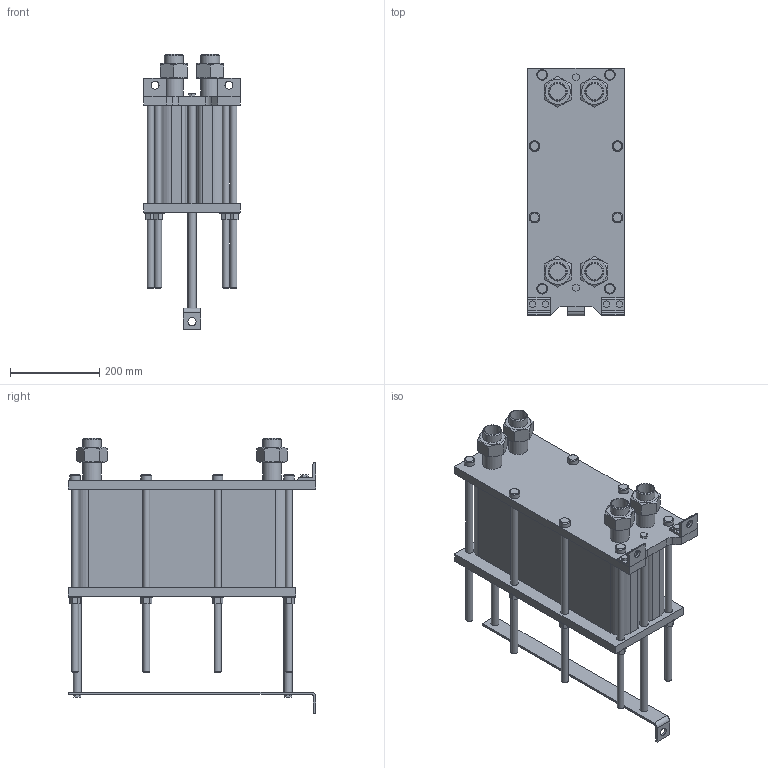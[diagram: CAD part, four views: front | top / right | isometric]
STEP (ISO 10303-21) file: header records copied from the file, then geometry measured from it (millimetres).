
FILE_DESCRIPTION(/* description */ (''),/* implementation_level */ '2;1');
FILE_NAME(/* name */ 'C:\Users\zhuro\Desktop\ENCO\TO\ЭН-004\ЭН-0,5-004-71-1.stp',/* time_stamp */ '2022-06-06T10:49:14+03:00',/* author */ ('zhuro'),/* organization */ (''),/* preprocessor_version */ 'ST-DEVELOPER v18.1',/* originating_system */ 'Autodesk Inventor 2022',/* authorisation */ '');
FILE_SCHEMA (('AUTOMOTIVE_DESIGN { 1 0 10303 214 3 1 1 }'));
Length unit declared in the file: millimetre
Products named in the file (1): ЭН-0,5-004-71-1
Bounding box: 216 x 555 x 617.8 mm (x, y, z)
Volume: 22159381.5 mm3; surface area: 1435413.9 mm2
Topology: 40 solids, 40 shells, 403 faces, 865 edges, 574 vertices
Faces by surface type: plane 272, cylinder 103, cone 28
Full cylindrical faces by diameter (mm): 10 x4, 16 x16, 18 x29, 20 x2, 24 x8, 28 x8, 36.3 x5, 42.3 x9
Entity records: 11137 total; most frequent: CARTESIAN_POINT 1939, DIRECTION 1879, ORIENTED_EDGE 1730, EDGE_CURVE 865, AXIS2_PLACEMENT_3D 658, VERTEX_POINT 574, LINE 563, VECTOR 563
